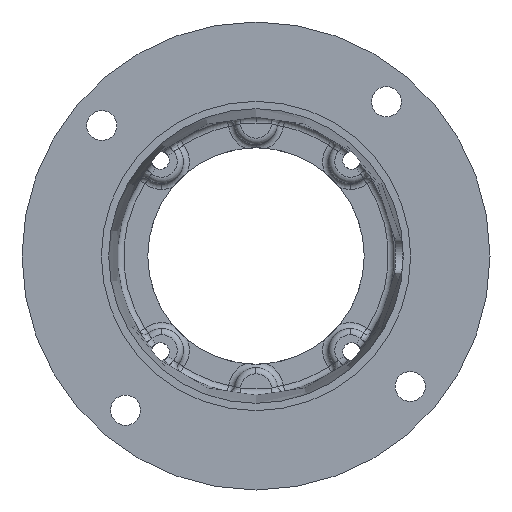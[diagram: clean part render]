
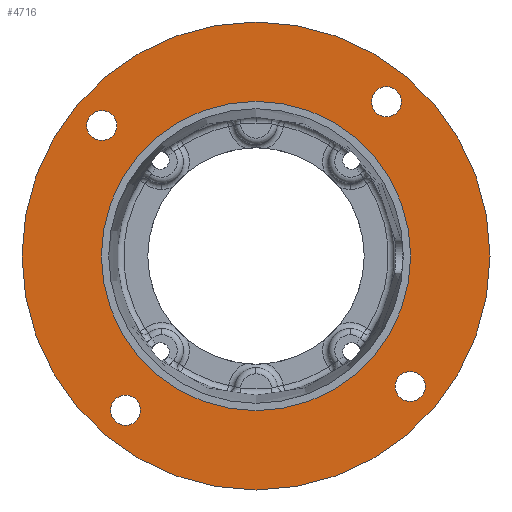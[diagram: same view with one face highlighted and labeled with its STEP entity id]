
A CAD part, front view. The second image highlights one B-rep face of the part: STEP entity #4716.
In plain terms, the highlighted planar face has unit normal (0, -1, 0).
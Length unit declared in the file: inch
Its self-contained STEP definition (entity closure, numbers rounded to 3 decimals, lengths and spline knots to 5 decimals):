
#121 = ORIENTED_EDGE ( 'NONE', *, *, #6485, .F. ) ;
#134 = EDGE_LOOP ( 'NONE', ( #7619, #5333 ) ) ;
#153 = DIRECTION ( 'NONE',  ( 0., -1., 0. ) ) ;
#310 = DIRECTION ( 'NONE',  ( 0., -1., 0. ) ) ;
#378 = CIRCLE ( 'NONE', #1130, 2.2505 ) ;
#402 = EDGE_CURVE ( 'NONE', #7868, #2829, #1678, .T. ) ;
#440 = CARTESIAN_POINT ( 'NONE',  ( 2.24475, 0.237, -1.89861 ) ) ;
#466 = CIRCLE ( 'NONE', #1209, 0.21875 ) ;
#592 = EDGE_LOOP ( 'NONE', ( #1027, #787 ) ) ;
#652 = FACE_OUTER_BOUND ( 'NONE', #2334, .T. ) ;
#672 = DIRECTION ( 'NONE',  ( 0., -1., 0. ) ) ;
#732 = VERTEX_POINT ( 'NONE', #3203 ) ;
#776 = CARTESIAN_POINT ( 'NONE',  ( -1.89861, 0.237, -2.026 ) ) ;
#787 = ORIENTED_EDGE ( 'NONE', *, *, #402, .F. ) ;
#802 = DIRECTION ( 'NONE',  ( 0., -1., 0. ) ) ;
#854 = VERTEX_POINT ( 'NONE', #2684 ) ;
#925 = CARTESIAN_POINT ( 'NONE',  ( -1.89861, 0.237, -2.4635 ) ) ;
#939 = EDGE_CURVE ( 'NONE', #732, #5379, #378, .T. ) ;
#974 = CARTESIAN_POINT ( 'NONE',  ( 2.24475, 0.237, -1.89861 ) ) ;
#1011 = AXIS2_PLACEMENT_3D ( 'NONE', #440, #4821, #1087 ) ;
#1027 = ORIENTED_EDGE ( 'NONE', *, *, #6050, .F. ) ;
#1039 = EDGE_LOOP ( 'NONE', ( #4365, #7563 ) ) ;
#1087 = DIRECTION ( 'NONE',  ( 0., 0., -1. ) ) ;
#1130 = AXIS2_PLACEMENT_3D ( 'NONE', #1881, #6228, #2508 ) ;
#1143 = EDGE_CURVE ( 'NONE', #1627, #7773, #466, .T. ) ;
#1148 = CARTESIAN_POINT ( 'NONE',  ( 0., 0.237, 2.2505 ) ) ;
#1209 = AXIS2_PLACEMENT_3D ( 'NONE', #4420, #672, #5048 ) ;
#1305 = ORIENTED_EDGE ( 'NONE', *, *, #6507, .T. ) ;
#1612 = DIRECTION ( 'NONE',  ( 0., 0., -1. ) ) ;
#1627 = VERTEX_POINT ( 'NONE', #7916 ) ;
#1678 = CIRCLE ( 'NONE', #6187, 0.21875 ) ;
#1707 = CARTESIAN_POINT ( 'NONE',  ( 0., 0.237, 3.405 ) ) ;
#1840 = CIRCLE ( 'NONE', #1011, 0.21875 ) ;
#1881 = CARTESIAN_POINT ( 'NONE',  ( 0., 0.237, 0. ) ) ;
#1941 = CIRCLE ( 'NONE', #2121, 3.405 ) ;
#2050 = CIRCLE ( 'NONE', #4516, 0.21875 ) ;
#2055 = VERTEX_POINT ( 'NONE', #925 ) ;
#2089 = EDGE_LOOP ( 'NONE', ( #5123, #121 ) ) ;
#2121 = AXIS2_PLACEMENT_3D ( 'NONE', #5932, #2217, #6546 ) ;
#2145 = CIRCLE ( 'NONE', #6826, 0.21875 ) ;
#2165 = CIRCLE ( 'NONE', #3458, 0.21875 ) ;
#2217 = DIRECTION ( 'NONE',  ( 0., -1., 0. ) ) ;
#2227 = CARTESIAN_POINT ( 'NONE',  ( 1.89861, 0.237, 2.24475 ) ) ;
#2280 = CARTESIAN_POINT ( 'NONE',  ( 1.89861, 0.237, 2.026 ) ) ;
#2334 = EDGE_LOOP ( 'NONE', ( #1305, #3664 ) ) ;
#2347 = FACE_BOUND ( 'NONE', #1039, .T. ) ;
#2363 = VERTEX_POINT ( 'NONE', #5589 ) ;
#2508 = DIRECTION ( 'NONE',  ( 0., 0., -1. ) ) ;
#2534 = FACE_BOUND ( 'NONE', #2089, .T. ) ;
#2684 = CARTESIAN_POINT ( 'NONE',  ( 2.24475, 0.237, -1.67986 ) ) ;
#2710 = DIRECTION ( 'NONE',  ( 0., -1., 0. ) ) ;
#2827 = DIRECTION ( 'NONE',  ( 0., -1., 0. ) ) ;
#2829 = VERTEX_POINT ( 'NONE', #2280 ) ;
#2862 = DIRECTION ( 'NONE',  ( 0., 0., -1. ) ) ;
#2969 = AXIS2_PLACEMENT_3D ( 'NONE', #3484, #7770, #4091 ) ;
#3033 = VERTEX_POINT ( 'NONE', #776 ) ;
#3203 = CARTESIAN_POINT ( 'NONE',  ( 0., 0.237, -2.2505 ) ) ;
#3304 = CARTESIAN_POINT ( 'NONE',  ( 1.89861, 0.237, 2.4635 ) ) ;
#3415 = DIRECTION ( 'NONE',  ( 0., 0., -1. ) ) ;
#3458 = AXIS2_PLACEMENT_3D ( 'NONE', #974, #5342, #1612 ) ;
#3484 = CARTESIAN_POINT ( 'NONE',  ( 0., 0.237, 0. ) ) ;
#3610 = CIRCLE ( 'NONE', #2969, 3.405 ) ;
#3664 = ORIENTED_EDGE ( 'NONE', *, *, #6520, .T. ) ;
#3687 = AXIS2_PLACEMENT_3D ( 'NONE', #6525, #2827, #7141 ) ;
#3926 = CARTESIAN_POINT ( 'NONE',  ( -1.89861, 0.237, -2.24475 ) ) ;
#3937 = EDGE_CURVE ( 'NONE', #2363, #854, #2165, .T. ) ;
#3977 = EDGE_LOOP ( 'NONE', ( #5512, #6513 ) ) ;
#4004 = FACE_BOUND ( 'NONE', #3977, .T. ) ;
#4075 = CARTESIAN_POINT ( 'NONE',  ( 1.89861, 0.237, 2.24475 ) ) ;
#4091 = DIRECTION ( 'NONE',  ( 0., 0., -1. ) ) ;
#4187 = FACE_BOUND ( 'NONE', #592, .T. ) ;
#4365 = ORIENTED_EDGE ( 'NONE', *, *, #939, .F. ) ;
#4420 = CARTESIAN_POINT ( 'NONE',  ( -2.24475, 0.237, 1.89861 ) ) ;
#4452 = AXIS2_PLACEMENT_3D ( 'NONE', #7679, #7099, #3415 ) ;
#4516 = AXIS2_PLACEMENT_3D ( 'NONE', #4075, #310, #4694 ) ;
#4538 = DIRECTION ( 'NONE',  ( 0., 0., -1. ) ) ;
#4554 = CARTESIAN_POINT ( 'NONE',  ( -2.24475, 0.237, 1.89861 ) ) ;
#4623 = PLANE ( 'NONE',  #4452 ) ;
#4694 = DIRECTION ( 'NONE',  ( 0., 0., -1. ) ) ;
#4716 = ADVANCED_FACE ( 'NONE', ( #4187, #2534, #4004, #7448, #2347, #652 ), #4623, .T. ) ;
#4821 = DIRECTION ( 'NONE',  ( 0., -1., 0. ) ) ;
#5048 = DIRECTION ( 'NONE',  ( 0., 0., -1. ) ) ;
#5123 = ORIENTED_EDGE ( 'NONE', *, *, #1143, .F. ) ;
#5135 = CARTESIAN_POINT ( 'NONE',  ( 0., 0.237, -3.405 ) ) ;
#5177 = DIRECTION ( 'NONE',  ( 0., 0., -1. ) ) ;
#5333 = ORIENTED_EDGE ( 'NONE', *, *, #6049, .F. ) ;
#5342 = DIRECTION ( 'NONE',  ( 0., -1., 0. ) ) ;
#5357 = CIRCLE ( 'NONE', #3687, 0.21875 ) ;
#5379 = VERTEX_POINT ( 'NONE', #1148 ) ;
#5382 = EDGE_CURVE ( 'NONE', #5379, #732, #7663, .T. ) ;
#5500 = AXIS2_PLACEMENT_3D ( 'NONE', #3926, #153, #4538 ) ;
#5512 = ORIENTED_EDGE ( 'NONE', *, *, #3937, .F. ) ;
#5579 = VERTEX_POINT ( 'NONE', #1707 ) ;
#5589 = CARTESIAN_POINT ( 'NONE',  ( 2.24475, 0.237, -2.11736 ) ) ;
#5856 = EDGE_CURVE ( 'NONE', #2055, #3033, #6130, .T. ) ;
#5932 = CARTESIAN_POINT ( 'NONE',  ( 0., 0.237, 0. ) ) ;
#6049 = EDGE_CURVE ( 'NONE', #3033, #2055, #5357, .T. ) ;
#6050 = EDGE_CURVE ( 'NONE', #2829, #7868, #2050, .T. ) ;
#6073 = CARTESIAN_POINT ( 'NONE',  ( -2.24475, 0.237, 2.11736 ) ) ;
#6130 = CIRCLE ( 'NONE', #5500, 0.21875 ) ;
#6134 = EDGE_CURVE ( 'NONE', #854, #2363, #1840, .T. ) ;
#6187 = AXIS2_PLACEMENT_3D ( 'NONE', #2227, #6553, #2862 ) ;
#6228 = DIRECTION ( 'NONE',  ( 0., -1., 0. ) ) ;
#6413 = CARTESIAN_POINT ( 'NONE',  ( 0., 0.237, 0. ) ) ;
#6485 = EDGE_CURVE ( 'NONE', #7773, #1627, #2145, .T. ) ;
#6507 = EDGE_CURVE ( 'NONE', #6766, #5579, #1941, .T. ) ;
#6513 = ORIENTED_EDGE ( 'NONE', *, *, #6134, .F. ) ;
#6520 = EDGE_CURVE ( 'NONE', #5579, #6766, #3610, .T. ) ;
#6525 = CARTESIAN_POINT ( 'NONE',  ( -1.89861, 0.237, -2.24475 ) ) ;
#6546 = DIRECTION ( 'NONE',  ( 0., 0., -1. ) ) ;
#6553 = DIRECTION ( 'NONE',  ( 0., -1., 0. ) ) ;
#6630 = AXIS2_PLACEMENT_3D ( 'NONE', #6413, #2710, #7030 ) ;
#6766 = VERTEX_POINT ( 'NONE', #5135 ) ;
#6826 = AXIS2_PLACEMENT_3D ( 'NONE', #4554, #802, #5177 ) ;
#7030 = DIRECTION ( 'NONE',  ( 0., 0., -1. ) ) ;
#7099 = DIRECTION ( 'NONE',  ( 0., -1., 0. ) ) ;
#7141 = DIRECTION ( 'NONE',  ( 0., 0., -1. ) ) ;
#7448 = FACE_BOUND ( 'NONE', #134, .T. ) ;
#7563 = ORIENTED_EDGE ( 'NONE', *, *, #5382, .F. ) ;
#7619 = ORIENTED_EDGE ( 'NONE', *, *, #5856, .F. ) ;
#7663 = CIRCLE ( 'NONE', #6630, 2.2505 ) ;
#7679 = CARTESIAN_POINT ( 'NONE',  ( 0., 0.237, 0. ) ) ;
#7770 = DIRECTION ( 'NONE',  ( 0., -1., 0. ) ) ;
#7773 = VERTEX_POINT ( 'NONE', #6073 ) ;
#7868 = VERTEX_POINT ( 'NONE', #3304 ) ;
#7916 = CARTESIAN_POINT ( 'NONE',  ( -2.24475, 0.237, 1.67986 ) ) ;
